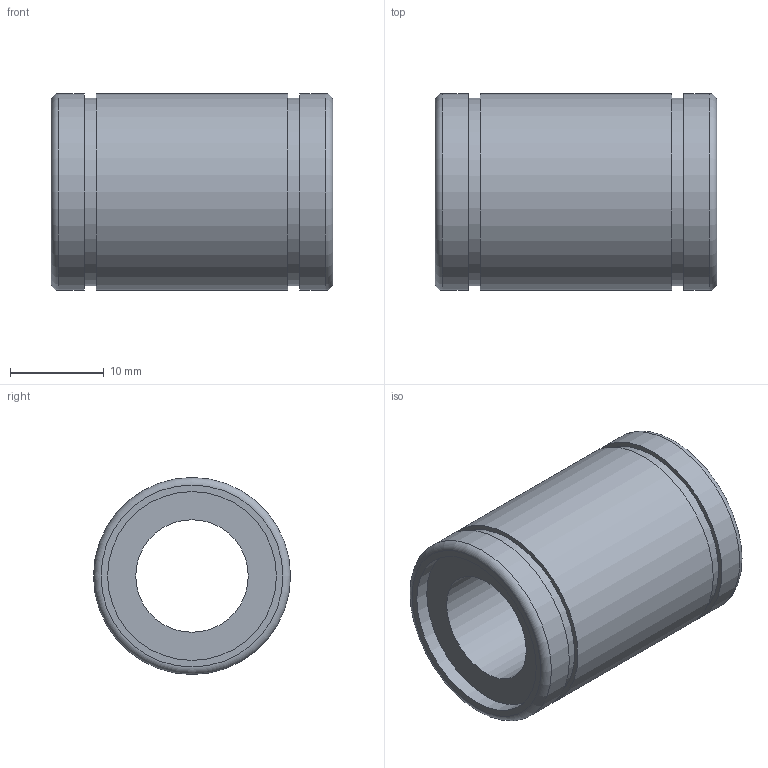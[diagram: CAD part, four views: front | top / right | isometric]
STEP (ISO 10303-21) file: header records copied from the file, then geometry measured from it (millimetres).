
FILE_DESCRIPTION( ( 'Unknown' ), '1' );
FILE_NAME( 'D:/累诀/己绕皋墨飘肺葱胶/11-04-06_档搁累己/01_府聪绢何教/LM/LM12.stp', 'Unknown', ( 'Unknown' ), ( 'Unknown' ), 'PSStep 11.0', 'Unknown', ' ' );
FILE_SCHEMA( ( 'AUTOMOTIVE_DESIGN { 1 0 10303 214 1 1 1 1 }' ) );
Length unit declared in the file: millimetre
Products named in the file (1): 1
Bounding box: 30 x 21 x 21 mm (x, y, z)
Volume: 6472.2 mm3; surface area: 3708 mm2
Topology: 1 solids, 1 shells, 18 faces, 30 edges, 20 vertices
Faces by surface type: plane 8, cylinder 8, torus 2
Full cylindrical faces by diameter (mm): 12 x1, 18 x2, 20 x2, 21 x3
Entity records: 528 total; most frequent: DIRECTION 74, CARTESIAN_POINT 55, AXIS2_PLACEMENT_3D 37, EDGE_LOOP 36, ORIENTED_EDGE 36, FACE_OUTER_BOUND 28, STYLED_ITEM 18, PRESENTATION_STYLE_ASSIGNMENT 18
